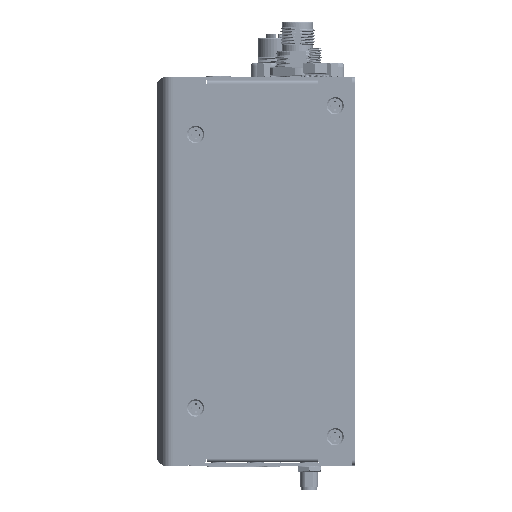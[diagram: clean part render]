
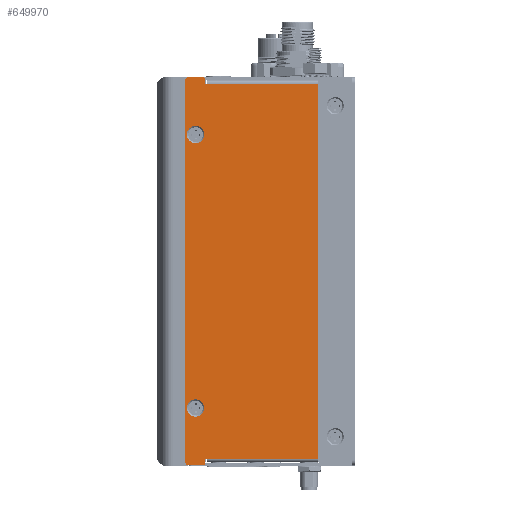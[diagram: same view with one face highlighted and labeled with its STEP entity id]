
A CAD part, left-side view. The second image highlights one B-rep face of the part: STEP entity #649970.
In plain terms, the highlighted planar face has unit normal (-1, 0, 0).
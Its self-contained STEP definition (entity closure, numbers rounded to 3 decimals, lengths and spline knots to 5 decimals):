
#189409=CARTESIAN_POINT('',(-0.075,0.0555,0.0475));
#189410=DIRECTION('',(1.,0.,0.));
#189411=DIRECTION('',(0.,0.,-1.));
#189412=AXIS2_PLACEMENT_3D('',#189409,#189410,#189411);
#189414=CARTESIAN_POINT('',(-0.075,0.0555,0.0475));
#189415=DIRECTION('',(1.,0.,0.));
#189416=DIRECTION('',(0.,0.,1.));
#189417=AXIS2_PLACEMENT_3D('',#189414,#189415,#189416);
#189419=CARTESIAN_POINT('',(-0.075,0.0555,-0.0475));
#189420=DIRECTION('',(1.,0.,0.));
#189421=DIRECTION('',(0.,0.,-1.));
#189422=AXIS2_PLACEMENT_3D('',#189419,#189420,#189421);
#189424=CARTESIAN_POINT('',(-0.075,0.0555,-0.0475));
#189425=DIRECTION('',(1.,0.,0.));
#189426=DIRECTION('',(0.,0.,1.));
#189427=AXIS2_PLACEMENT_3D('',#189424,#189425,#189426);
#189429=DIRECTION('',(0.,0.,1.));
#189430=VECTOR('',#189429,0.13035);
#189431=CARTESIAN_POINT('',(-0.075,0.013,-0.06515));
#189432=LINE('',#189431,#189430);
#189433=CARTESIAN_POINT('',(-0.075,0.05305,-0.0664));
#189434=DIRECTION('',(-1.,0.,0.));
#189435=DIRECTION('',(0.,0.,-1.));
#189436=AXIS2_PLACEMENT_3D('',#189433,#189434,#189435);
#189438=CARTESIAN_POINT('',(-0.075,0.05805,-0.0664));
#189439=DIRECTION('',(-1.,0.,0.));
#189440=DIRECTION('',(0.,1.,0.));
#189441=AXIS2_PLACEMENT_3D('',#189438,#189439,#189440);
#189443=CARTESIAN_POINT('',(-0.075,0.05805,0.0664));
#189444=DIRECTION('',(-1.,0.,0.));
#189445=DIRECTION('',(0.,0.,1.));
#189446=AXIS2_PLACEMENT_3D('',#189443,#189444,#189445);
#189448=CARTESIAN_POINT('',(-0.075,0.05305,0.0664));
#189449=DIRECTION('',(-1.,0.,0.));
#189450=DIRECTION('',(0.,-1.,0.));
#189451=AXIS2_PLACEMENT_3D('',#189448,#189449,#189450);
#189527=DIRECTION('',(0.,-1.,0.));
#189528=VECTOR('',#189527,0.03855);
#189529=CARTESIAN_POINT('',(-0.075,0.05155,0.0652));
#189530=LINE('',#189529,#189528);
#191171=DIRECTION('',(0.,-1.,0.));
#191172=VECTOR('',#191171,0.0005);
#191173=CARTESIAN_POINT('',(-0.075,0.05205,0.0652));
#191174=LINE('',#191173,#191172);
#191179=DIRECTION('',(0.,0.,-1.));
#191180=VECTOR('',#191179,0.0012);
#191181=CARTESIAN_POINT('',(-0.075,0.05205,0.0664));
#191182=LINE('',#191181,#191180);
#191199=DIRECTION('',(0.,-1.,0.));
#191200=VECTOR('',#191199,0.005);
#191201=CARTESIAN_POINT('',(-0.075,0.05805,0.0674));
#191202=LINE('',#191201,#191200);
#191211=DIRECTION('',(0.,0.,1.));
#191212=VECTOR('',#191211,0.1328);
#191213=CARTESIAN_POINT('',(-0.075,0.05905,-0.0664));
#191214=LINE('',#191213,#191212);
#191223=DIRECTION('',(0.,1.,0.));
#191224=VECTOR('',#191223,0.005);
#191225=CARTESIAN_POINT('',(-0.075,0.05305,-0.0674));
#191226=LINE('',#191225,#191224);
#191243=DIRECTION('',(0.,0.,-1.));
#191244=VECTOR('',#191243,0.00125);
#191245=CARTESIAN_POINT('',(-0.075,0.05205,-0.06515));
#191246=LINE('',#191245,#191244);
#191255=DIRECTION('',(0.,1.,0.));
#191256=VECTOR('',#191255,0.0005);
#191257=CARTESIAN_POINT('',(-0.075,0.05155,-0.06515));
#191258=LINE('',#191257,#191256);
#191289=DIRECTION('',(0.,1.,0.));
#191290=VECTOR('',#191289,0.03855);
#191291=CARTESIAN_POINT('',(-0.075,0.013,-0.06515));
#191292=LINE('',#191291,#191290);
#363346=CARTESIAN_POINT('',(-0.075,0.05205,0.0664));
#363347=CARTESIAN_POINT('',(-0.075,0.05305,0.0674));
#363348=VERTEX_POINT('',#363346);
#363349=VERTEX_POINT('',#363347);
#363350=CARTESIAN_POINT('',(-0.075,0.05205,0.0652));
#363351=VERTEX_POINT('',#363350);
#363352=CARTESIAN_POINT('',(-0.075,0.05155,0.0652));
#363353=VERTEX_POINT('',#363352);
#363354=CARTESIAN_POINT('',(-0.075,0.05155,-0.06515));
#363355=CARTESIAN_POINT('',(-0.075,0.05205,-0.06515));
#363356=VERTEX_POINT('',#363354);
#363357=VERTEX_POINT('',#363355);
#363358=CARTESIAN_POINT('',(-0.075,0.05205,-0.0664));
#363359=VERTEX_POINT('',#363358);
#363360=CARTESIAN_POINT('',(-0.075,0.05305,-0.0674));
#363361=VERTEX_POINT('',#363360);
#363362=CARTESIAN_POINT('',(-0.075,0.05805,-0.0674));
#363363=VERTEX_POINT('',#363362);
#363364=CARTESIAN_POINT('',(-0.075,0.05905,-0.0664));
#363365=VERTEX_POINT('',#363364);
#363366=CARTESIAN_POINT('',(-0.075,0.05905,0.0664));
#363367=VERTEX_POINT('',#363366);
#363368=CARTESIAN_POINT('',(-0.075,0.05805,0.0674));
#363369=VERTEX_POINT('',#363368);
#363370=CARTESIAN_POINT('',(-0.075,0.0555,-0.0445));
#363371=CARTESIAN_POINT('',(-0.075,0.0555,-0.0505));
#363372=VERTEX_POINT('',#363370);
#363373=VERTEX_POINT('',#363371);
#363374=CARTESIAN_POINT('',(-0.075,0.0555,0.0505));
#363375=CARTESIAN_POINT('',(-0.075,0.0555,0.0445));
#363376=VERTEX_POINT('',#363374);
#363377=VERTEX_POINT('',#363375);
#385939=CARTESIAN_POINT('',(-0.075,0.013,-0.06515));
#385940=CARTESIAN_POINT('',(-0.075,0.013,0.0652));
#385941=VERTEX_POINT('',#385939);
#385942=VERTEX_POINT('',#385940);
#649925=CARTESIAN_POINT('',(-0.075,0.00105,0.0652));
#649926=DIRECTION('',(-1.,0.,0.));
#649927=DIRECTION('',(0.,0.,1.));
#649928=AXIS2_PLACEMENT_3D('',#649925,#649926,#649927);
#649929=PLANE('',#649928);
#649931=ORIENTED_EDGE('',*,*,#649930,.F.);
#649933=ORIENTED_EDGE('',*,*,#649932,.T.);
#649935=ORIENTED_EDGE('',*,*,#649934,.T.);
#649937=ORIENTED_EDGE('',*,*,#649936,.T.);
#649939=ORIENTED_EDGE('',*,*,#649938,.F.);
#649941=ORIENTED_EDGE('',*,*,#649940,.T.);
#649943=ORIENTED_EDGE('',*,*,#649942,.F.);
#649945=ORIENTED_EDGE('',*,*,#649944,.T.);
#649947=ORIENTED_EDGE('',*,*,#649946,.F.);
#649949=ORIENTED_EDGE('',*,*,#649948,.T.);
#649951=ORIENTED_EDGE('',*,*,#649950,.F.);
#649953=ORIENTED_EDGE('',*,*,#649952,.T.);
#649955=ORIENTED_EDGE('',*,*,#649954,.T.);
#649957=ORIENTED_EDGE('',*,*,#649956,.T.);
#649958=EDGE_LOOP('',(#649931,#649933,#649935,#649937,#649939,#649941,#649943,
#649945,#649947,#649949,#649951,#649953,#649955,#649957));
#649959=FACE_OUTER_BOUND('',#649958,.F.);
#649961=ORIENTED_EDGE('',*,*,#649960,.F.);
#649963=ORIENTED_EDGE('',*,*,#649962,.F.);
#649964=EDGE_LOOP('',(#649961,#649963));
#649965=FACE_BOUND('',#649964,.F.);
#649966=ORIENTED_EDGE('',*,*,#649904,.F.);
#649967=ORIENTED_EDGE('',*,*,#649918,.F.);
#649968=EDGE_LOOP('',(#649966,#649967));
#649969=FACE_BOUND('',#649968,.F.);
#649970=ADVANCED_FACE('',(#649959,#649965,#649969),#649929,.T.);
#189413=CIRCLE('',#189412,0.003);
#189418=CIRCLE('',#189417,0.003);
#189423=CIRCLE('',#189422,0.003);
#189428=CIRCLE('',#189427,0.003);
#189437=CIRCLE('',#189436,0.001);
#189442=CIRCLE('',#189441,0.001);
#189447=CIRCLE('',#189446,0.001);
#189452=CIRCLE('',#189451,0.001);
#649904=EDGE_CURVE('',#363377,#363376,#189413,.T.);
#649918=EDGE_CURVE('',#363376,#363377,#189418,.T.);
#649930=EDGE_CURVE('',#385941,#385942,#189432,.T.);
#649932=EDGE_CURVE('',#385941,#363356,#191292,.T.);
#649934=EDGE_CURVE('',#363356,#363357,#191258,.T.);
#649936=EDGE_CURVE('',#363357,#363359,#191246,.T.);
#649938=EDGE_CURVE('',#363361,#363359,#189437,.T.);
#649940=EDGE_CURVE('',#363361,#363363,#191226,.T.);
#649942=EDGE_CURVE('',#363365,#363363,#189442,.T.);
#649944=EDGE_CURVE('',#363365,#363367,#191214,.T.);
#649946=EDGE_CURVE('',#363369,#363367,#189447,.T.);
#649948=EDGE_CURVE('',#363369,#363349,#191202,.T.);
#649950=EDGE_CURVE('',#363348,#363349,#189452,.T.);
#649952=EDGE_CURVE('',#363348,#363351,#191182,.T.);
#649954=EDGE_CURVE('',#363351,#363353,#191174,.T.);
#649956=EDGE_CURVE('',#363353,#385942,#189530,.T.);
#649960=EDGE_CURVE('',#363373,#363372,#189423,.T.);
#649962=EDGE_CURVE('',#363372,#363373,#189428,.T.);
